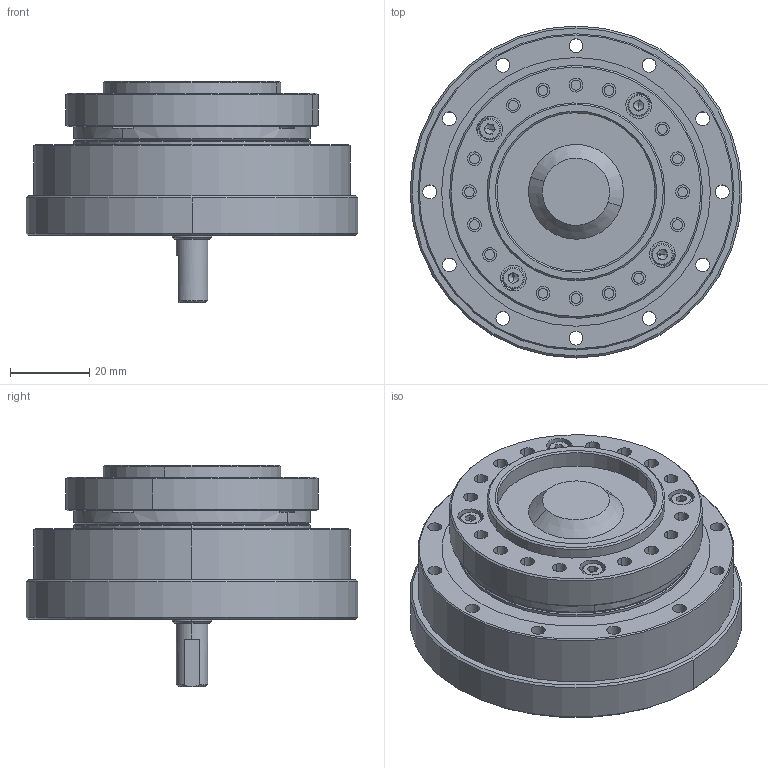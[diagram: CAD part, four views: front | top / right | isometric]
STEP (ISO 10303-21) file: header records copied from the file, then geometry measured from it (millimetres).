
FILE_DESCRIPTION (( 'STEP AP203' ), '1' );
FILE_NAME ('BHS-17-XXX-U-¢ô.STEP', '2019-01-15T03:45:18', ( 'User' ), ( 'China' ), 'SwSTEP 2.0', 'SolidWorks 2015', '' );
FILE_SCHEMA (( 'CONFIG_CONTROL_DESIGN' ));
Length unit declared in the file: millimetre
Products named in the file (1): BHS-17-XXX-U-ｌ
Bounding box: 84 x 84 x 56 mm (x, y, z)
Surface area: 30224.6 mm2 (no closed solid volume)
Topology: 0 solids, 18 shells, 286 faces, 842 edges, 550 vertices
Faces by surface type: cylinder 130, plane 88, cone 58, torus 10
Entity records: 9624 total; most frequent: DIRECTION 1844, CARTESIAN_POINT 1675, ORIENTED_EDGE 1366, EDGE_CURVE 826, AXIS2_PLACEMENT_3D 733, VERTEX_POINT 550, CIRCLE 446, EDGE_LOOP 378
